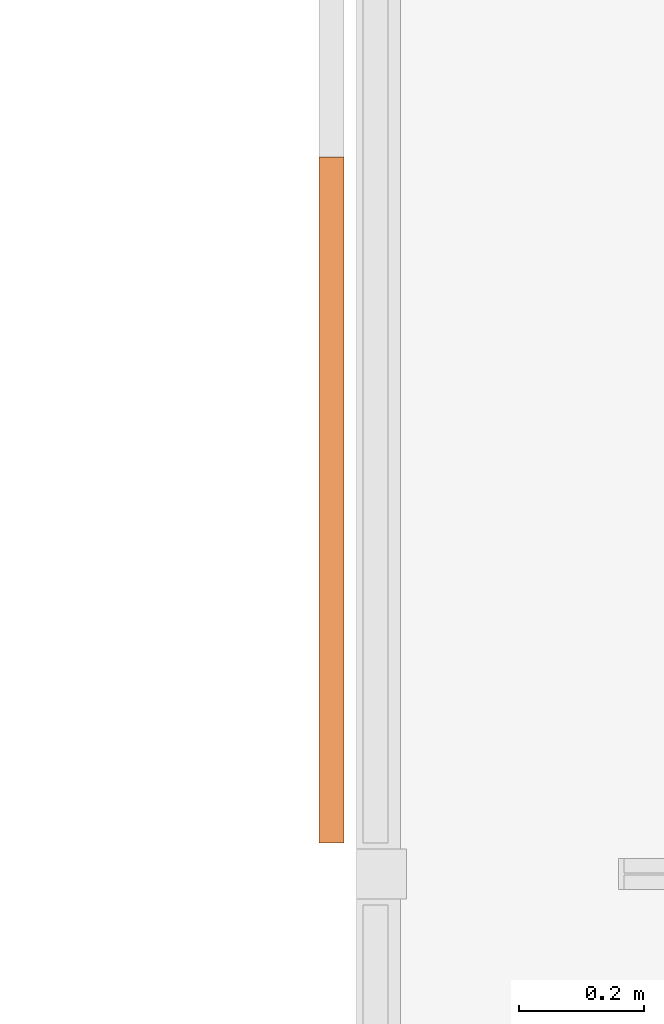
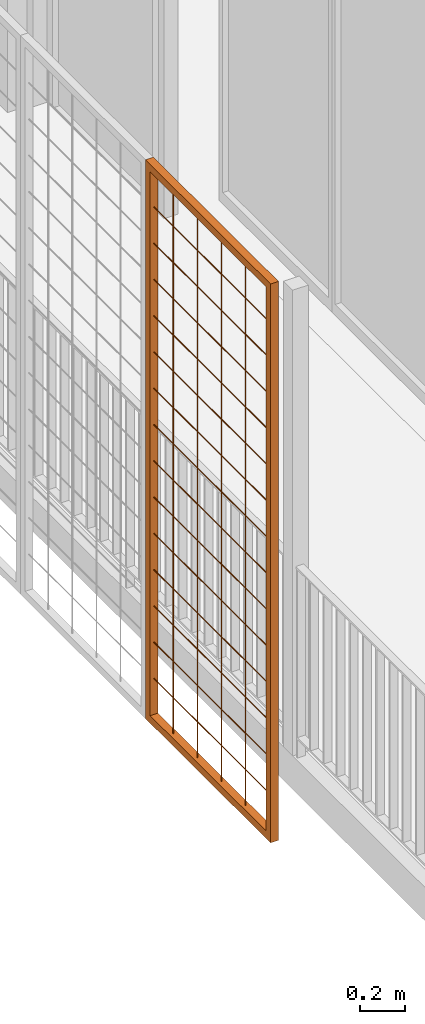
# One storey, part 40 of 51: 2 proxies.
"""IFC2X3 building model written with IfcOpenShell, lengths in metres."""

from ifc_helpers import new_model, entity, si_unit, converted_unit, derived_unit, direction, frame, frame_2d, origin, origin_2d_with_axis, place, context, subcontext, project, spatial, polyline, rectangle, outline, extrude, source, transform, mapped, material, type_object, type_shapes, element, save


model = new_model("IFC2X3")

# Units and contexts
model_context = context("Model", 3, precision=1e-05, world=origin(), true_north=direction((6.123031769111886e-17, 1.0)))
body_context = subcontext(model_context, "Body", "Model", "MODEL_VIEW")
ifc_project = project(units=[si_unit("LENGTHUNIT", "METRE"), si_unit("AREAUNIT", "SQUARE_METRE"), si_unit("VOLUMEUNIT", "CUBIC_METRE"), converted_unit("PLANEANGLEUNIT", "DEGREE", entity("IfcRatioMeasure", 0.017453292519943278), si_unit("PLANEANGLEUNIT", "RADIAN"), dimensions=[0, 0, 0, 0, 0, 0, 0]), si_unit("MASSUNIT", "GRAM", prefix="KILO"), derived_unit("MASSDENSITYUNIT", [(si_unit("MASSUNIT", "GRAM", prefix="KILO"), 1), (si_unit("LENGTHUNIT", "METRE"), -3)]), derived_unit("MOMENTOFINERTIAUNIT", [(si_unit("LENGTHUNIT", "METRE"), 4)]), si_unit("TIMEUNIT", "SECOND"), si_unit("FREQUENCYUNIT", "HERTZ"), si_unit("THERMODYNAMICTEMPERATUREUNIT", "DEGREE_CELSIUS"), derived_unit("THERMALTRANSMITTANCEUNIT", [(si_unit("MASSUNIT", "GRAM", prefix="KILO"), 1), (si_unit("THERMODYNAMICTEMPERATUREUNIT", "KELVIN"), -1), (si_unit("TIMEUNIT", "SECOND"), -3)]), derived_unit("THERMALCONDUCTANCEUNIT", [(si_unit("MASSUNIT", "GRAM", prefix="KILO"), 1), (si_unit("LENGTHUNIT", "METRE"), 1), (si_unit("THERMODYNAMICTEMPERATUREUNIT", "KELVIN"), -1), (si_unit("TIMEUNIT", "SECOND"), -3)]), derived_unit("VOLUMETRICFLOWRATEUNIT", [(si_unit("LENGTHUNIT", "METRE"), 3), (si_unit("TIMEUNIT", "SECOND"), -1)]), derived_unit("MASSFLOWRATEUNIT", [(si_unit("MASSUNIT", "GRAM", prefix="KILO"), 1), (si_unit("TIMEUNIT", "SECOND"), -1)]), derived_unit("ROTATIONALFREQUENCYUNIT", [(si_unit("TIMEUNIT", "SECOND"), -1)]), si_unit("ELECTRICCURRENTUNIT", "AMPERE"), si_unit("ELECTRICVOLTAGEUNIT", "VOLT"), si_unit("POWERUNIT", "WATT"), si_unit("FORCEUNIT", "NEWTON", prefix="KILO"), si_unit("ILLUMINANCEUNIT", "LUX"), si_unit("LUMINOUSFLUXUNIT", "LUMEN"), si_unit("LUMINOUSINTENSITYUNIT", "CANDELA"), derived_unit("USERDEFINED", [(si_unit("MASSUNIT", "GRAM", prefix="KILO"), -1), (si_unit("LENGTHUNIT", "METRE"), -2), (si_unit("TIMEUNIT", "SECOND"), 3), (si_unit("LUMINOUSFLUXUNIT", "LUMEN"), 1)]), derived_unit("USERDEFINED", [(si_unit("MASSUNIT", "GRAM", prefix="KILO"), 1), (si_unit("LENGTHUNIT", "METRE"), 3), (si_unit("TIMEUNIT", "SECOND"), -3), (si_unit("ELECTRICCURRENTUNIT", "AMPERE"), -2)]), derived_unit("USERDEFINED", [(si_unit("LENGTHUNIT", "METRE"), 2), (si_unit("TIMEUNIT", "SECOND"), -2)]), derived_unit("SOUNDPOWERUNIT", [(si_unit("MASSUNIT", "GRAM", prefix="KILO"), 1), (si_unit("LENGTHUNIT", "METRE"), 2), (si_unit("TIMEUNIT", "SECOND"), -3)]), derived_unit("SOUNDPRESSUREUNIT", [(si_unit("MASSUNIT", "GRAM", prefix="KILO"), 1), (si_unit("LENGTHUNIT", "METRE"), -1), (si_unit("TIMEUNIT", "SECOND"), -2)]), derived_unit("LINEARVELOCITYUNIT", [(si_unit("LENGTHUNIT", "METRE"), 1), (si_unit("TIMEUNIT", "SECOND"), -1)]), si_unit("PRESSUREUNIT", "PASCAL"), derived_unit("USERDEFINED", [(si_unit("LENGTHUNIT", "METRE"), -2), (si_unit("MASSUNIT", "GRAM", prefix="KILO"), 1), (si_unit("TIMEUNIT", "SECOND"), -2)]), derived_unit("LINEARFORCEUNIT", [(si_unit("MASSUNIT", "GRAM", prefix="KILO"), 1), (si_unit("LENGTHUNIT", "METRE"), 1), (si_unit("TIMEUNIT", "SECOND"), -2), (si_unit("LENGTHUNIT", "METRE"), -1)]), derived_unit("PLANARFORCEUNIT", [(si_unit("MASSUNIT", "GRAM", prefix="KILO"), 1), (si_unit("LENGTHUNIT", "METRE"), 1), (si_unit("TIMEUNIT", "SECOND"), -2), (si_unit("LENGTHUNIT", "METRE"), -2)]), derived_unit("SPECIFICHEATCAPACITYUNIT", [(si_unit("LENGTHUNIT", "METRE"), 2), (si_unit("TIMEUNIT", "SECOND"), -2), (si_unit("THERMODYNAMICTEMPERATUREUNIT", "KELVIN"), -1)]), derived_unit("VAPORPERMEABILITYUNIT", [(si_unit("TIMEUNIT", "SECOND"), 1), (si_unit("LENGTHUNIT", "METRE"), -1)]), derived_unit("DYNAMICVISCOSITYUNIT", [(si_unit("MASSUNIT", "GRAM", prefix="KILO"), 1), (si_unit("LENGTHUNIT", "METRE"), -1), (si_unit("TIMEUNIT", "SECOND"), -1)]), derived_unit("THERMALEXPANSIONCOEFFICIENTUNIT", [(si_unit("THERMODYNAMICTEMPERATUREUNIT", "KELVIN"), -1)])], contexts=[model_context])

# Site, building, storey
site_placement = place(None, origin())
site = spatial("IfcSite", under=ifc_project, at=site_placement, Name="Default", CompositionType="ELEMENT")
building_placement = place(site_placement, origin())
building = spatial("IfcBuilding", under=site, at=building_placement, CompositionType="ELEMENT")
storey_placement = place(building_placement, frame((0.0, 0.0, 3.06)))
storey = spatial("IfcBuildingStorey", under=building, at=storey_placement, Name="ÉTAGE", CompositionType="ELEMENT", Elevation=3.06)

# Proxies
ifc_material = material(Name="Peinture - Gris foncé")
building_element_proxy_type_1 = type_object("IfcBuildingElementProxyType", Name="Symb-0003", PredefinedType="NOTDEFINED", material=ifc_material)
shared_shape_1 = source(origin(), body_context, "Body", "SweptSolid", [
    extrude(outline(polyline([(-0.0011785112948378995, -0.002357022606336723), (0.0, -0.0023570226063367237), (0.001767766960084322, -0.0017677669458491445), (0.002357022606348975, 0.0), (0.0023570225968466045, 0.0011785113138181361), (0.0011785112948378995, 0.002357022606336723), (0.0, 0.002357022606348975), (-0.001767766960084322, 0.0017677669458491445), (-0.0023570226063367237, 0.0), (-0.0023570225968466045, -0.0011785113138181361), (-0.0011785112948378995, -0.002357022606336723)])), frame((139.86075228, 14.827209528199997, 6.7275), z_axis=(0.0, 1.0, 0.0), x_axis=(-0.7071067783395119, 0.0, -0.7071067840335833)), (0.0, 0.0, 1.0), 1.0200000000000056),
    extrude(outline(polyline([(-0.0011785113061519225, -0.0023570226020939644), (0.0, -0.002357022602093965), (0.0017677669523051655, -0.001767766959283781), (0.0023570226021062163, 0.0), (0.002357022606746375, 0.0011785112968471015), (0.0011785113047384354, 0.0023570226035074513), (0.0, 0.0023570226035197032), (-0.0017677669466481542, 0.0017677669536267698), (-0.002357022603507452, 0.0), (-0.0023570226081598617, -0.0011785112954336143), (-0.0011785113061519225, -0.0023570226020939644)])), frame((139.86075228, 14.827209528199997, 6.532833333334), z_axis=(0.0, 1.0, 0.0), x_axis=(-0.7071067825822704, 0.0, -0.7071067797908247)), (0.0, 0.0, 1.0), 1.0200000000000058),
    extrude(outline(polyline([(-0.001178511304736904, -0.002357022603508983), (0.0, -0.002357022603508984), (0.0017677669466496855, -0.001767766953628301), (0.002357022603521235, 0.0), (0.0023570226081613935, 0.0011785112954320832), (0.0011785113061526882, 0.002357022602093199), (0.0, 0.002357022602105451), (-0.0017677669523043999, 0.0017677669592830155), (-0.0023570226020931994, 0.0), (-0.0023570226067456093, -0.0011785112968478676), (-0.001178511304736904, -0.002357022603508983)])), frame((139.86075228, 14.827209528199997, 6.338166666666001), z_axis=(0.0, 1.0, 0.0), x_axis=(-0.7071067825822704, 0.0, -0.7071067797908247)), (0.0, 0.0, 1.0), 1.0200000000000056),
    extrude(outline(polyline([(-0.0011785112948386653, -0.0023570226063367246), (0.0, -0.0023570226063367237), (0.0017677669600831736, -0.001767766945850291), (0.002357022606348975, 0.0), (0.0023570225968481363, 0.001178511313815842), (0.0011785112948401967, 0.0023570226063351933), (0.0, 0.002357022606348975), (-0.001767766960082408, 0.0017677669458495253), (-0.0023570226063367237, 0.0), (-0.002357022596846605, -0.0011785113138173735), (-0.0011785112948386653, -0.0023570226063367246)])), frame((139.86075228, 14.827209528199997, 6.1435), z_axis=(0.0, 1.0, 0.0), x_axis=(-0.7071067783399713, 0.0, -0.7071067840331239)), (0.0, 0.0, 1.0), 1.0200000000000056),
    extrude(outline(polyline([(-0.0011785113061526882, -0.002357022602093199), (0.0, -0.0023570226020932), (0.0017677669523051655, -0.001767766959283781), (0.002357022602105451, 0.0), (0.0023570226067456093, 0.0011785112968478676), (0.0011785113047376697, 0.002357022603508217), (0.0, 0.0023570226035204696), (-0.0017677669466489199, 0.0017677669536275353), (-0.002357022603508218, 0.0), (-0.0023570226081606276, -0.0011785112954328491), (-0.0011785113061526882, -0.002357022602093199)])), frame((139.86075228, 14.827209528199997, 5.948833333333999), z_axis=(0.0, 1.0, 0.0), x_axis=(-0.7071067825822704, 0.0, -0.7071067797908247)), (0.0, 0.0, 1.0), 1.0200000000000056),
    extrude(outline(polyline([(-0.0011785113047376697, -0.002357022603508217), (0.0, -0.002357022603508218), (0.0017677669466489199, -0.0017677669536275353), (0.0023570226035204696, 0.0), (0.0023570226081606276, 0.0011785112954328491), (0.0011785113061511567, 0.0023570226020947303), (0.0, 0.0023570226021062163), (-0.0017677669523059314, 0.0017677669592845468), (-0.0023570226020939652, 0.0), (-0.0023570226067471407, -0.0011785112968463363), (-0.0011785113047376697, -0.002357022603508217)])), frame((139.86075228, 14.827209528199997, 5.754166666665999), z_axis=(0.0, 1.0, 0.0), x_axis=(-0.7071067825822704, 0.0, -0.7071067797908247)), (0.0, 0.0, 1.0), 1.0200000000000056),
    extrude(outline(polyline([(-0.001178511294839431, -0.0023570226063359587), (0.0, -0.002357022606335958), (0.001767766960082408, -0.0017677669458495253), (0.0023570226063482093, 0.0), (0.0023570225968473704, 0.0011785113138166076), (0.001178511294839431, 0.0023570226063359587), (0.0, 0.0023570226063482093), (-0.001767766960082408, 0.0017677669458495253), (-0.002357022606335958, 0.0), (-0.0023570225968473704, -0.0011785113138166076), (-0.001178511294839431, -0.0023570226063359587)])), frame((139.86075228, 14.827209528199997, 5.5595), z_axis=(0.0, 1.0, 0.0), x_axis=(-0.7071067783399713, 0.0, -0.7071067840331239)), (0.0, 0.0, 1.0), 1.0200000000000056),
    extrude(outline(polyline([(-0.0011785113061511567, -0.0023570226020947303), (0.0, -0.002357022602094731), (0.001767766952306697, -0.0017677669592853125), (0.002357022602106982, 0.0), (0.0023570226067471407, 0.0011785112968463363), (0.001178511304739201, 0.0023570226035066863), (0.0, 0.0023570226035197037), (-0.0017677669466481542, 0.0017677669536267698), (-0.002357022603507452, 0.0), (-0.0023570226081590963, -0.0011785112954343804), (-0.0011785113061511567, -0.0023570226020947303)])), frame((139.86075228, 14.827209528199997, 5.364833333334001), z_axis=(0.0, 1.0, 0.0), x_axis=(-0.7071067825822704, 0.0, -0.7071067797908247)), (0.0, 0.0, 1.0), 1.0200000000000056),
    extrude(outline(polyline([(-0.001178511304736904, -0.002357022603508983), (0.0, -0.002357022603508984), (0.0017677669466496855, -0.001767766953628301), (0.002357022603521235, 0.0), (0.0023570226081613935, 0.0011785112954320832), (0.0011785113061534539, 0.002357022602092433), (0.0, 0.002357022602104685), (-0.0017677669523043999, 0.0017677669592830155), (-0.002357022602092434, 0.0), (-0.0023570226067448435, -0.0011785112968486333), (-0.001178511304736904, -0.002357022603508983)])), frame((139.86075228, 14.827209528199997, 5.1701666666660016), z_axis=(0.0, 1.0, 0.0), x_axis=(-0.7071067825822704, 0.0, -0.7071067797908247)), (0.0, 0.0, 1.0), 1.0200000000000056),
    extrude(outline(polyline([(-0.001178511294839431, -0.0023570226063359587), (0.0, -0.002357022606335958), (0.001767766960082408, -0.0017677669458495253), (0.0023570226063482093, 0.0), (0.0023570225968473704, 0.0011785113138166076), (0.0011785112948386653, 0.0023570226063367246), (0.0, 0.0023570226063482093), (-0.0017677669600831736, 0.001767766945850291), (-0.002357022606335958, 0.0), (-0.0023570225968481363, -0.001178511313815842), (-0.001178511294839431, -0.0023570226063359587)])), frame((139.86075228, 14.827209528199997, 4.975499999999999), z_axis=(0.0, 1.0, 0.0), x_axis=(-0.7071067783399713, 0.0, -0.7071067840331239)), (0.0, 0.0, 1.0), 1.0200000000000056),
    extrude(outline(polyline([(-0.0011785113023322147, -0.0023570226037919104), (0.0, -0.002357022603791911), (0.0017677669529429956, -0.0017677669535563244), (0.002357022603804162, 0.0), (0.002357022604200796, 0.0011785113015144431), (0.0011785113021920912, 0.002357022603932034), (0.0, 0.0023570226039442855), (-0.001767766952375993, 0.0017677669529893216), (-0.0023570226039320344, 0.0), (-0.0023570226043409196, -0.0011785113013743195), (-0.0011785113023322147, -0.0023570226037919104)])), frame((139.86075228, 14.827209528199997, 4.780833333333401), z_axis=(0.0, 1.0, 0.0), x_axis=(-0.7071067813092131, 0.0, -0.7071067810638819)), (0.0, 0.0, 1.0), 1.0200000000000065),
    extrude(outline(polyline([(-0.0011785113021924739, -0.0023570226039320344), (0.0, -0.0023570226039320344), (0.0017677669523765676, -0.0017677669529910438), (0.002357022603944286, 0.0), (0.0023570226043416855, 0.0011785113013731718), (0.0011785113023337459, 0.002357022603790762), (0.0, 0.0023570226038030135), (-0.0017677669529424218, 0.0017677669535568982), (-0.0023570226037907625, 0.0), (-0.002357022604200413, -0.001178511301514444), (-0.0011785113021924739, -0.0023570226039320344)])), frame((139.86075228, 14.827209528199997, 4.5861666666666), z_axis=(0.0, 1.0, 0.0), x_axis=(-0.7071067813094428, 0.0, -0.7071067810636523)), (0.0, 0.0, 1.0), 1.0200000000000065),
    extrude(outline(polyline([(-0.0011785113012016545, -0.0023570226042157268), (0.0, -0.002357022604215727), (0.001767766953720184, -0.0017677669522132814), (0.0023570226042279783, 0.0), (0.0023570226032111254, 0.0011785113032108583), (0.001178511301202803, 0.0023570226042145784), (0.0, 0.002357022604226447), (-0.0017677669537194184, 0.0017677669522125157), (-0.002357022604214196, 0.0), (-0.0023570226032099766, -0.0011785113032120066), (-0.0011785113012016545, -0.0023570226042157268)])), frame((139.86075228, 14.827209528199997, 4.391500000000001), z_axis=(0.0, 1.0, 0.0), x_axis=(-0.707106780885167, 0.0, -0.707106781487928)), (0.0, 0.0, 1.0), 1.0200000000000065),
    extrude(outline(polyline([(-0.0011785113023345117, -0.0023570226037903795), (0.0, -0.0023570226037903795), (0.0017677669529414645, -0.0017677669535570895), (0.0023570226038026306, 0.0), (0.002357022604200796, 0.0011785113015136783), (0.001178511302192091, 0.0023570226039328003), (0.0, 0.002357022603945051), (-0.00176776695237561, 0.001767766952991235), (-0.0023570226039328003, 0.0), (-0.002357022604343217, -0.0011785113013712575), (-0.0011785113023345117, -0.0023570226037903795)])), frame((139.86075228, 14.827209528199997, 4.196833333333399), z_axis=(0.0, 1.0, 0.0), x_axis=(-0.7071067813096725, 0.0, -0.7071067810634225)), (0.0, 0.0, 1.0), 1.0200000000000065),
    extrude(outline(polyline([(-0.001178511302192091, -0.002357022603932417), (0.0, -0.0023570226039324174), (0.0017677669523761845, -0.0017677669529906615), (0.0023570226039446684, 0.0), (0.0023570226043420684, 0.0011785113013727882), (0.0011785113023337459, 0.002357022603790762), (0.0, 0.0023570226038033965), (-0.001767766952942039, 0.001767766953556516), (-0.0023570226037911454, 0.0), (-0.002357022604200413, -0.0011785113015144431), (-0.001178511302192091, -0.002357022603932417)])), frame((139.86075228, 14.827209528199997, 4.0021666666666), z_axis=(0.0, 1.0, 0.0), x_axis=(-0.7071067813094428, 0.0, -0.7071067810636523)), (0.0, 0.0, 1.0), 1.0200000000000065),
    extrude(rectangle(XDim=1.099999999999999, YDim=0.039999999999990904, at=frame_2d((-1.1102230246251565e-15, 0.0), x_axis=(1.0, 0.0))), frame((139.86075227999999, 15.3372095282, 6.73), z_axis=(0.0, 0.0, 1.0), x_axis=(0.0, 1.0, 0.0)), (0.0, 0.0, 1.0), 0.03999999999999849),
    extrude(rectangle(XDim=1.099999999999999, YDim=0.039999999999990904, at=frame_2d((-1.1102230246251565e-15, 0.0), x_axis=(1.0, 0.0))), frame((139.86075227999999, 15.3372095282, 3.7699999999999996), z_axis=(0.0, 0.0, 1.0), x_axis=(0.0, 1.0, 0.0)), (0.0, 0.0, 1.0), 0.04000000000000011),
    extrude(rectangle(XDim=0.03999999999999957, YDim=0.039999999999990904, at=origin_2d_with_axis()), frame((139.86075227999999, 14.8072095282, 3.8099999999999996), z_axis=(0.0, 0.0, 1.0), x_axis=(0.0, 1.0, 0.0)), (0.0, 0.0, 1.0), 2.9200000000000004),
    extrude(rectangle(XDim=0.03999999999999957, YDim=0.039999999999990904, at=origin_2d_with_axis()), frame((139.86075227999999, 15.867209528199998, 3.8099999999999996), z_axis=(0.0, 0.0, 1.0), x_axis=(0.0, 1.0, 0.0)), (0.0, 0.0, 1.0), 2.9200000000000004),
])
type_shapes(building_element_proxy_type_1, [shared_shape_1])
proxy_1_placement = place(storey_placement, frame((0.0, 0.0, -3.06)))
element("IfcBuildingElementProxy", 1, at=proxy_1_placement, inside=storey, type_object=building_element_proxy_type_1, material=ifc_material, Name="Symb-0003 288190:Symb-0003 288190", ObjectType="Symb-0003 288190:Symb-0003 288190", context=body_context, shape_type="MappedRepresentation", body=[
    mapped(shared_shape_1, transform((0.0, 0.0, 0.0), scale=1.0)),
])
building_element_proxy_type_2 = type_object("IfcBuildingElementProxyType", Name="Symb-0003", PredefinedType="NOTDEFINED", material=ifc_material)
shared_shape_2 = source(origin(), body_context, "Body", "SweptSolid", [
    extrude(outline(polyline([(-0.0011180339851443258, -0.002236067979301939), (0.0007453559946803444, -0.002236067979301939), (0.001863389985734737, -0.0018633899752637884), (0.0026087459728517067, -0.00037267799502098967), (0.002236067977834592, 0.0007453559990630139), (0.0011180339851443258, 0.002236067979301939), (-0.0007453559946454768, 0.0022360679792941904), (-0.001863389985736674, 0.001863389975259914), (-0.0026087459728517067, 0.00037267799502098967), (-0.0022360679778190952, -0.0007453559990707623), (-0.0011180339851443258, -0.002236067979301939)])), frame((139.86075228, 14.829709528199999, 3.81), z_axis=(0.0, 0.0, 1.0), x_axis=(-0.8944271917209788, -0.44721359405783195, 0.0)), (0.0, 0.0, 1.0), 2.9200000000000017),
    extrude(outline(polyline([(-0.0011180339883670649, -0.002236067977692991), (0.0007453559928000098, -0.0022360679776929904), (0.0018633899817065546, -0.0018633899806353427), (0.0026087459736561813, -0.00037267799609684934), (0.0022360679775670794, 0.0007453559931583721), (0.0011180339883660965, 0.002236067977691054), (-0.000745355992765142, 0.002236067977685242), (-0.0018633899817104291, 0.0018633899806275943), (-0.0026087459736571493, 0.0003726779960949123), (-0.0022360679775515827, -0.0007453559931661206), (-0.0011180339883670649, -0.002236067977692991)])), frame((139.86075228, 15.041709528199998, 3.81), z_axis=(0.0, 0.0, 1.0), x_axis=(-0.8944271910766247, -0.44721359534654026, 0.0)), (0.0, 0.0, 1.0), 2.9200000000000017),
    extrude(outline(polyline([(-0.0011180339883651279, -0.0022360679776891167), (0.0007453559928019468, -0.002236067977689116), (0.0018633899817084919, -0.0018633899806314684), (0.002608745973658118, -0.0003726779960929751), (0.0022360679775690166, 0.0007453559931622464), (0.0011180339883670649, 0.002236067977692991), (-0.0007453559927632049, 0.0022360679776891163), (-0.0018633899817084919, 0.0018633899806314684), (-0.002608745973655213, 0.00037267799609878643), (-0.0022360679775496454, -0.0007453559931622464), (-0.0011180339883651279, -0.0022360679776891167)])), frame((139.86075228, 15.253709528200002, 3.81), z_axis=(0.0, 0.0, 1.0), x_axis=(-0.8944271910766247, -0.44721359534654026, 0.0)), (0.0, 0.0, 1.0), 2.9200000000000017),
    extrude(outline(polyline([(-0.0011180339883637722, -0.0022360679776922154), (0.0007453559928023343, -0.0022360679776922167), (0.0018633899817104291, -0.001863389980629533), (0.0026087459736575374, -0.00037267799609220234), (0.0022360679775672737, 0.0007453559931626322), (0.0011180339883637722, 0.0022360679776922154), (-0.0007453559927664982, 0.002236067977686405), (-0.0018633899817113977, 0.001863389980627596), (-0.002608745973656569, 0.00037267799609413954), (-0.002236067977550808, -0.0007453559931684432), (-0.0011180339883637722, -0.0022360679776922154)])), frame((139.86075228, 15.4657095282, 3.81), z_axis=(0.0, 0.0, 1.0), x_axis=(-0.8944271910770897, -0.4472135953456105, 0.0)), (0.0, 0.0, 1.0), 2.92),
    extrude(outline(polyline([(-0.0011180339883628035, -0.002236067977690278), (0.0007453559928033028, -0.002236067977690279), (0.0018633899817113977, -0.001863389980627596), (0.0026087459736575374, -0.00037267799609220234), (0.0022360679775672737, 0.0007453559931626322), (0.0011180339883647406, 0.0022360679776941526), (-0.0007453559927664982, 0.002236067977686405), (-0.0018633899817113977, 0.001863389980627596), (-0.0026087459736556, 0.00037267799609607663), (-0.0022360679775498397, -0.0007453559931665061), (-0.0011180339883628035, -0.002236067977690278)])), frame((139.86075228, 15.677709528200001, 3.81), z_axis=(0.0, 0.0, 1.0), x_axis=(-0.8944271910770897, -0.4472135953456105, 0.0)), (0.0, 0.0, 1.0), 2.92),
    extrude(rectangle(XDim=1.099999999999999, YDim=0.039999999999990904, at=frame_2d((-1.1102230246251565e-15, 0.0), x_axis=(1.0, 0.0))), frame((139.86075227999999, 15.3372095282, 6.73), z_axis=(0.0, 0.0, 1.0), x_axis=(0.0, 1.0, 0.0)), (0.0, 0.0, 1.0), 0.03999999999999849),
    extrude(rectangle(XDim=1.099999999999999, YDim=0.039999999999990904, at=frame_2d((-1.1102230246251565e-15, 0.0), x_axis=(1.0, 0.0))), frame((139.86075227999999, 15.3372095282, 3.7699999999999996), z_axis=(0.0, 0.0, 1.0), x_axis=(0.0, 1.0, 0.0)), (0.0, 0.0, 1.0), 0.04000000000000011),
    extrude(rectangle(XDim=0.03999999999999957, YDim=0.039999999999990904, at=origin_2d_with_axis()), frame((139.86075227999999, 14.8072095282, 3.8099999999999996), z_axis=(0.0, 0.0, 1.0), x_axis=(0.0, 1.0, 0.0)), (0.0, 0.0, 1.0), 2.9200000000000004),
    extrude(rectangle(XDim=0.03999999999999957, YDim=0.039999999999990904, at=origin_2d_with_axis()), frame((139.86075227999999, 15.867209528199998, 3.8099999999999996), z_axis=(0.0, 0.0, 1.0), x_axis=(0.0, 1.0, 0.0)), (0.0, 0.0, 1.0), 2.9200000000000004),
])
type_shapes(building_element_proxy_type_2, [shared_shape_2])
proxy_2_placement = place(storey_placement, frame((0.0, 0.0, -3.06)))
element("IfcBuildingElementProxy", 2, at=proxy_2_placement, inside=storey, type_object=building_element_proxy_type_2, material=ifc_material, Name="Symb-0003 464753:Symb-0003 464753", ObjectType="Symb-0003 464753:Symb-0003 464753", context=body_context, shape_type="MappedRepresentation", body=[
    mapped(shared_shape_2, transform((0.0, 0.0, 0.0), scale=1.0)),
])

save(model, "model.ifc")
